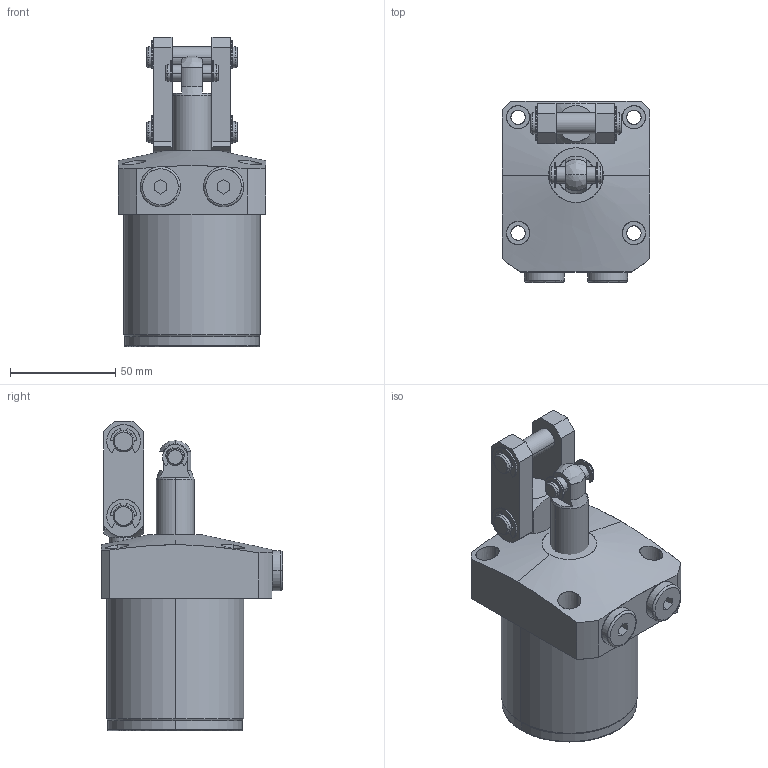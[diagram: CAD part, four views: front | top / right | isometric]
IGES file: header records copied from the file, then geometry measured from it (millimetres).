
Start section: SolidWorks IGES file using analytic representation for surfaces
Global section: file name: C:\Documents and Settings\nijil\My Documents\Clasys1\LQ Series\65\0401-0301.IGS; native system: SolidWorks 2010; preprocessor: SolidWorks 2010; author: nijil; date: 130723.130406; units: millimetre
Bounding box: 70 x 86 x 147 mm (x, y, z)
Surface area: 47633.3 mm2 (no closed solid volume)
Topology: 0 solids, 0 shells, 273 faces, 4190 edges, 4184 vertices
Faces by surface type: revolution 155, bspline 118
